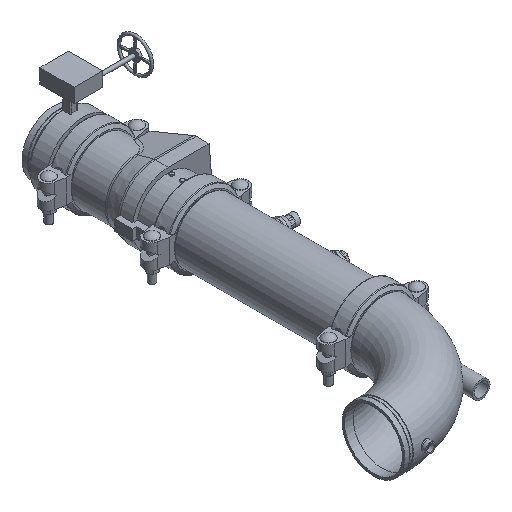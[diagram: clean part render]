
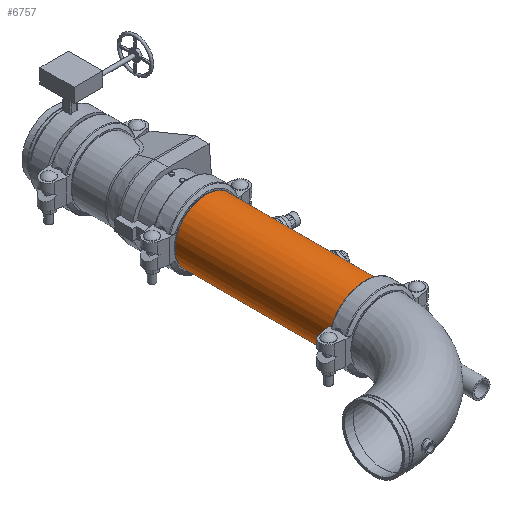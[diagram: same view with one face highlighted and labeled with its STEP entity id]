
A CAD part, isometric view. The second image highlights one B-rep face of the part: STEP entity #6757.
In plain terms, the highlighted cylindrical face has radius 109.537 mm (diameter 219.075 mm), a full revolution.
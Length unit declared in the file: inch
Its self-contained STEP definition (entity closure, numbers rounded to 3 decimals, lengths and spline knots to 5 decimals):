
#194=LINE('',#10212,#687);
#687=VECTOR('',#8131,4.3125);
#1180=CYLINDRICAL_SURFACE('',#7314,4.3125);
#1384=FACE_OUTER_BOUND('',#1763,.T.);
#1763=EDGE_LOOP('',(#4225,#4226,#4227,#4228,#4229,#4230));
#2217=CIRCLE('',#7312,4.3125);
#2218=CIRCLE('',#7313,4.3125);
#2219=CIRCLE('',#7315,4.3125);
#2220=CIRCLE('',#7316,4.3125);
#2596=VERTEX_POINT('',#10203);
#2597=VERTEX_POINT('',#10204);
#2598=VERTEX_POINT('',#10208);
#2599=VERTEX_POINT('',#10209);
#3250=EDGE_CURVE('',#2596,#2597,#2217,.T.);
#3251=EDGE_CURVE('',#2597,#2596,#2218,.T.);
#3252=EDGE_CURVE('',#2598,#2599,#2219,.T.);
#3253=EDGE_CURVE('',#2599,#2598,#2220,.T.);
#3254=EDGE_CURVE('',#2599,#2597,#194,.T.);
#4225=ORIENTED_EDGE('',*,*,#3252,.F.);
#4226=ORIENTED_EDGE('',*,*,#3253,.F.);
#4227=ORIENTED_EDGE('',*,*,#3254,.T.);
#4228=ORIENTED_EDGE('',*,*,#3251,.T.);
#4229=ORIENTED_EDGE('',*,*,#3250,.T.);
#4230=ORIENTED_EDGE('',*,*,#3254,.F.);
#6757=ADVANCED_FACE('',(#1384),#1180,.T.);
#7312=AXIS2_PLACEMENT_3D('',#10205,#8121,#8122);
#7313=AXIS2_PLACEMENT_3D('',#10206,#8123,#8124);
#7314=AXIS2_PLACEMENT_3D('',#10207,#8125,#8126);
#7315=AXIS2_PLACEMENT_3D('',#10210,#8127,#8128);
#7316=AXIS2_PLACEMENT_3D('',#10211,#8129,#8130);
#8121=DIRECTION('center_axis',(1.,0.,0.));
#8122=DIRECTION('ref_axis',(0.,0.,-1.));
#8123=DIRECTION('center_axis',(1.,0.,0.));
#8124=DIRECTION('ref_axis',(0.,0.,-1.));
#8125=DIRECTION('center_axis',(1.,0.,0.));
#8126=DIRECTION('ref_axis',(0.,1.,0.));
#8127=DIRECTION('center_axis',(1.,0.,0.));
#8128=DIRECTION('ref_axis',(0.,0.,-1.));
#8129=DIRECTION('center_axis',(1.,0.,0.));
#8130=DIRECTION('ref_axis',(0.,0.,-1.));
#8131=DIRECTION('',(-1.,0.,0.));
#10203=CARTESIAN_POINT('',(-10.83475,4.3125,0.));
#10204=CARTESIAN_POINT('',(-10.83475,-4.3125,0.));
#10205=CARTESIAN_POINT('Origin',(-10.83475,0.,0.));
#10206=CARTESIAN_POINT('Origin',(-10.83475,0.,0.));
#10207=CARTESIAN_POINT('Origin',(0.,0.,0.));
#10208=CARTESIAN_POINT('',(10.83475,4.3125,0.));
#10209=CARTESIAN_POINT('',(10.83475,-4.3125,0.));
#10210=CARTESIAN_POINT('Origin',(10.83475,0.,0.));
#10211=CARTESIAN_POINT('Origin',(10.83475,0.,0.));
#10212=CARTESIAN_POINT('',(0.,-4.3125,0.));
